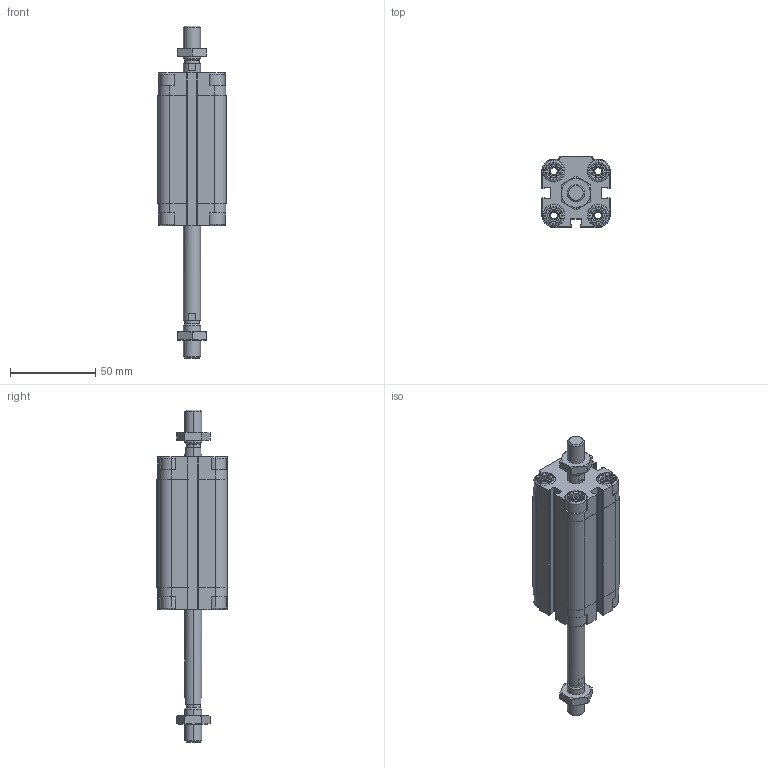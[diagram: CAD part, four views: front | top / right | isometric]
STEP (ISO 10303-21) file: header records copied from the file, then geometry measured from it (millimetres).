
FILE_DESCRIPTION (( 'STEP AP203' ), '1' );
FILE_NAME ('CDVU25-50M-P.STEP', '2020-07-21T15:11:49', ( '' ), ( '' ), 'SwSTEP 2.0', 'SolidWorks 2019', '' );
FILE_SCHEMA (( 'CONFIG_CONTROL_DESIGN' ));
Length unit declared in the file: millimetre
Products named in the file (1): CDVU25-50M-P
Bounding box: 40 x 41.5 x 194.5 mm (x, y, z)
Volume: 106686.4 mm3; surface area: 45300.1 mm2
Topology: 4 solids, 4 shells, 632 faces, 1650 edges, 1062 vertices
Faces by surface type: plane 372, cylinder 180, cone 64, torus 16
Entity records: 20069 total; most frequent: CARTESIAN_POINT 4485, ORIENTED_EDGE 3292, DIRECTION 3152, EDGE_CURVE 1646, AXIS2_PLACEMENT_3D 1089, VERTEX_POINT 1062, LINE 974, VECTOR 974
